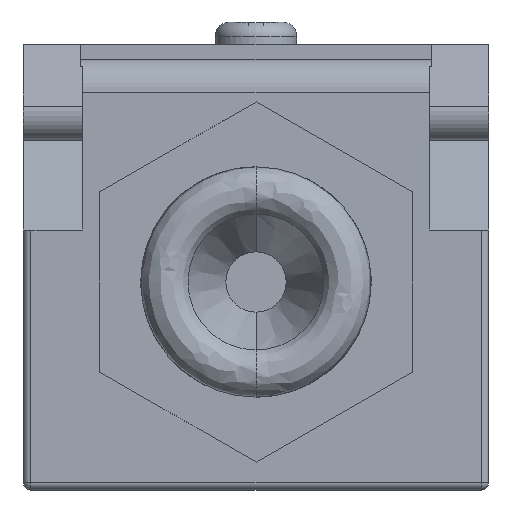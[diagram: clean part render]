
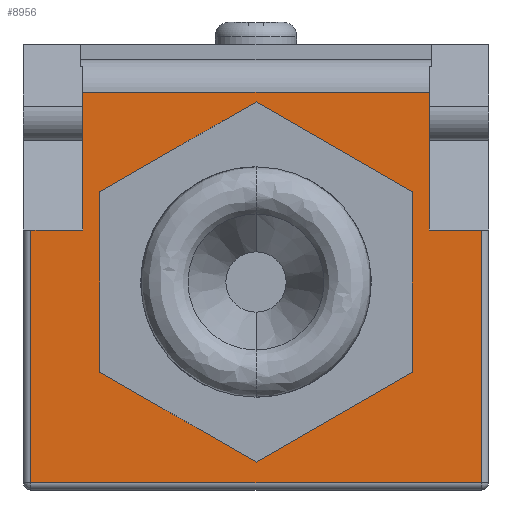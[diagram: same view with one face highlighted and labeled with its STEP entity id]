
A CAD part, front view. The second image highlights one B-rep face of the part: STEP entity #8956.
In plain terms, the highlighted planar face has unit normal (0, -1, 0).
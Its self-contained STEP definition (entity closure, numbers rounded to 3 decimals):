
#126 = EDGE_LOOP ( 'NONE', ( #693, #695, #694, #696, #697, #698 ) ) ;
#131 = EDGE_LOOP ( 'NONE', ( #683, #687, #686, #688, #689, #690, #691, #692 ) ) ;
#683 = ORIENTED_EDGE ( 'NONE', *, *, #9441, .T. ) ;
#686 = ORIENTED_EDGE ( 'NONE', *, *, #9442, .T. ) ;
#687 = ORIENTED_EDGE ( 'NONE', *, *, #9440, .T. ) ;
#688 = ORIENTED_EDGE ( 'NONE', *, *, #9443, .T. ) ;
#689 = ORIENTED_EDGE ( 'NONE', *, *, #9444, .T. ) ;
#690 = ORIENTED_EDGE ( 'NONE', *, *, #9445, .T. ) ;
#691 = ORIENTED_EDGE ( 'NONE', *, *, #9446, .F. ) ;
#692 = ORIENTED_EDGE ( 'NONE', *, *, #9448, .F. ) ;
#693 = ORIENTED_EDGE ( 'NONE', *, *, #9449, .F. ) ;
#694 = ORIENTED_EDGE ( 'NONE', *, *, #9450, .F. ) ;
#695 = ORIENTED_EDGE ( 'NONE', *, *, #9447, .F. ) ;
#696 = ORIENTED_EDGE ( 'NONE', *, *, #9451, .F. ) ;
#697 = ORIENTED_EDGE ( 'NONE', *, *, #9452, .F. ) ;
#698 = ORIENTED_EDGE ( 'NONE', *, *, #9453, .F. ) ;
#1512 = VERTEX_POINT ( 'NONE', #2392 ) ;
#1513 = VERTEX_POINT ( 'NONE', #2393 ) ;
#1514 = VERTEX_POINT ( 'NONE', #2394 ) ;
#1515 = VERTEX_POINT ( 'NONE', #2395 ) ;
#1516 = VERTEX_POINT ( 'NONE', #2396 ) ;
#1517 = VERTEX_POINT ( 'NONE', #2397 ) ;
#1518 = VERTEX_POINT ( 'NONE', #2398 ) ;
#1519 = VERTEX_POINT ( 'NONE', #2399 ) ;
#1520 = VERTEX_POINT ( 'NONE', #2400 ) ;
#1521 = VERTEX_POINT ( 'NONE', #2401 ) ;
#1522 = VERTEX_POINT ( 'NONE', #2402 ) ;
#1523 = VERTEX_POINT ( 'NONE', #2403 ) ;
#1524 = VERTEX_POINT ( 'NONE', #2404 ) ;
#1525 = VERTEX_POINT ( 'NONE', #2405 ) ;
#2392 = CARTESIAN_POINT ( 'NONE',  ( 11.65, -30., 16.071 ) ) ;
#2393 = CARTESIAN_POINT ( 'NONE',  ( -11.65, -30., 16.071 ) ) ;
#2394 = CARTESIAN_POINT ( 'NONE',  ( -11.65, -30., 6.8 ) ) ;
#2395 = CARTESIAN_POINT ( 'NONE',  ( -15.15, -30., 6.8 ) ) ;
#2396 = CARTESIAN_POINT ( 'NONE',  ( -15.15, -30., -10.2 ) ) ;
#2397 = CARTESIAN_POINT ( 'NONE',  ( 15.15, -30., -10.2 ) ) ;
#2398 = CARTESIAN_POINT ( 'NONE',  ( 15.15, -30., 6.8 ) ) ;
#2399 = CARTESIAN_POINT ( 'NONE',  ( 11.65, -30., 6.8 ) ) ;
#2400 = CARTESIAN_POINT ( 'NONE',  ( -10.5, -30., -2.762 ) ) ;
#2401 = CARTESIAN_POINT ( 'NONE',  ( 0., -30., -8.824 ) ) ;
#2402 = CARTESIAN_POINT ( 'NONE',  ( -10.5, -30., 9.362 ) ) ;
#2403 = CARTESIAN_POINT ( 'NONE',  ( 0., -30., 15.424 ) ) ;
#2404 = CARTESIAN_POINT ( 'NONE',  ( 10.5, -30., 9.362 ) ) ;
#2405 = CARTESIAN_POINT ( 'NONE',  ( 10.5, -30., -2.762 ) ) ;
#4720 = PLANE ( 'NONE',  #8010 ) ;
#4721 = CARTESIAN_POINT ( 'NONE',  ( -15.65, -30., 19.3 ) ) ;
#4722 = DIRECTION ( 'NONE',  ( 0., 1., 0. ) ) ;
#4723 = DIRECTION ( 'NONE',  ( 0., 0., 1. ) ) ;
#5387 = VECTOR ( 'NONE', #7224, 1000. ) ;
#5388 = VECTOR ( 'NONE', #7227, 1000. ) ;
#5389 = VECTOR ( 'NONE', #7230, 1000. ) ;
#5390 = VECTOR ( 'NONE', #7233, 1000. ) ;
#5391 = VECTOR ( 'NONE', #7236, 1000. ) ;
#5392 = VECTOR ( 'NONE', #7239, 1000. ) ;
#5393 = VECTOR ( 'NONE', #7242, 1000. ) ;
#5394 = VECTOR ( 'NONE', #7245, 1000. ) ;
#5396 = VECTOR ( 'NONE', #7248, 1000. ) ;
#5397 = VECTOR ( 'NONE', #7251, 1000. ) ;
#5398 = VECTOR ( 'NONE', #7254, 1000. ) ;
#5399 = VECTOR ( 'NONE', #7257, 1000. ) ;
#5400 = VECTOR ( 'NONE', #7260, 1000. ) ;
#5401 = VECTOR ( 'NONE', #7263, 1000. ) ;
#7222 = LINE ( 'NONE', #7223, #5387 ) ;
#7223 = CARTESIAN_POINT ( 'NONE',  ( -11.65, -30., 6.8 ) ) ;
#7224 = DIRECTION ( 'NONE',  ( 0., 0., -1. ) ) ;
#7225 = LINE ( 'NONE', #7226, #5388 ) ;
#7226 = CARTESIAN_POINT ( 'NONE',  ( -15.65, -30., 16.071 ) ) ;
#7227 = DIRECTION ( 'NONE',  ( -1., 0., 0. ) ) ;
#7228 = LINE ( 'NONE', #7229, #5389 ) ;
#7229 = CARTESIAN_POINT ( 'NONE',  ( -11.65, -30., 6.8 ) ) ;
#7230 = DIRECTION ( 'NONE',  ( -1., 0., 0. ) ) ;
#7231 = LINE ( 'NONE', #7232, #5390 ) ;
#7232 = CARTESIAN_POINT ( 'NONE',  ( -15.15, -30., 10.7 ) ) ;
#7233 = DIRECTION ( 'NONE',  ( 0., 0., -1. ) ) ;
#7234 = LINE ( 'NONE', #7235, #5391 ) ;
#7235 = CARTESIAN_POINT ( 'NONE',  ( 15.65, -30., -10.2 ) ) ;
#7236 = DIRECTION ( 'NONE',  ( 1., 0., 0. ) ) ;
#7237 = LINE ( 'NONE', #7238, #5392 ) ;
#7238 = CARTESIAN_POINT ( 'NONE',  ( 15.15, -30., 10.7 ) ) ;
#7239 = DIRECTION ( 'NONE',  ( 0., 0., 1. ) ) ;
#7240 = LINE ( 'NONE', #7241, #5393 ) ;
#7241 = CARTESIAN_POINT ( 'NONE',  ( 11.65, -30., 6.8 ) ) ;
#7242 = DIRECTION ( 'NONE',  ( 1., 0., 0. ) ) ;
#7243 = LINE ( 'NONE', #7244, #5394 ) ;
#7244 = CARTESIAN_POINT ( 'NONE',  ( -10.5, -30., 9.362 ) ) ;
#7245 = DIRECTION ( 'NONE',  ( 0., 0., -1. ) ) ;
#7246 = LINE ( 'NONE', #7247, #5396 ) ;
#7247 = CARTESIAN_POINT ( 'NONE',  ( 11.65, -30., 6.8 ) ) ;
#7248 = DIRECTION ( 'NONE',  ( 0., 0., -1. ) ) ;
#7249 = LINE ( 'NONE', #7250, #5397 ) ;
#7250 = CARTESIAN_POINT ( 'NONE',  ( -10.5, -30., -2.762 ) ) ;
#7251 = DIRECTION ( 'NONE',  ( 0.866, 0., -0.5 ) ) ;
#7252 = LINE ( 'NONE', #7253, #5398 ) ;
#7253 = CARTESIAN_POINT ( 'NONE',  ( 0., -30., 15.424 ) ) ;
#7254 = DIRECTION ( 'NONE',  ( -0.866, 0., -0.5 ) ) ;
#7255 = LINE ( 'NONE', #7256, #5399 ) ;
#7256 = CARTESIAN_POINT ( 'NONE',  ( 10.5, -30., 9.362 ) ) ;
#7257 = DIRECTION ( 'NONE',  ( -0.866, 0., 0.5 ) ) ;
#7258 = LINE ( 'NONE', #7259, #5400 ) ;
#7259 = CARTESIAN_POINT ( 'NONE',  ( 10.5, -30., -2.762 ) ) ;
#7260 = DIRECTION ( 'NONE',  ( 0., 0., 1. ) ) ;
#7261 = LINE ( 'NONE', #7262, #5401 ) ;
#7262 = CARTESIAN_POINT ( 'NONE',  ( 0., -30., -8.824 ) ) ;
#7263 = DIRECTION ( 'NONE',  ( 0.866, 0., 0.5 ) ) ;
#8010 = AXIS2_PLACEMENT_3D ( 'NONE', #4721, #4722, #4723 ) ;
#8956 = ADVANCED_FACE ( 'NONE', ( #11176, #11175 ), #4720, .F. ) ;
#9440 = EDGE_CURVE ( 'NONE', #1513, #1514, #7222, .T. ) ;
#9441 = EDGE_CURVE ( 'NONE', #1512, #1513, #7225, .T. ) ;
#9442 = EDGE_CURVE ( 'NONE', #1514, #1515, #7228, .T. ) ;
#9443 = EDGE_CURVE ( 'NONE', #1515, #1516, #7231, .T. ) ;
#9444 = EDGE_CURVE ( 'NONE', #1516, #1517, #7234, .T. ) ;
#9445 = EDGE_CURVE ( 'NONE', #1517, #1518, #7237, .T. ) ;
#9446 = EDGE_CURVE ( 'NONE', #1519, #1518, #7240, .T. ) ;
#9447 = EDGE_CURVE ( 'NONE', #1522, #1520, #7243, .T. ) ;
#9448 = EDGE_CURVE ( 'NONE', #1512, #1519, #7246, .T. ) ;
#9449 = EDGE_CURVE ( 'NONE', #1520, #1521, #7249, .T. ) ;
#9450 = EDGE_CURVE ( 'NONE', #1523, #1522, #7252, .T. ) ;
#9451 = EDGE_CURVE ( 'NONE', #1524, #1523, #7255, .T. ) ;
#9452 = EDGE_CURVE ( 'NONE', #1525, #1524, #7258, .T. ) ;
#9453 = EDGE_CURVE ( 'NONE', #1521, #1525, #7261, .T. ) ;
#11175 = FACE_BOUND ( 'NONE', #126, .T. ) ;
#11176 = FACE_OUTER_BOUND ( 'NONE', #131, .T. ) ;
